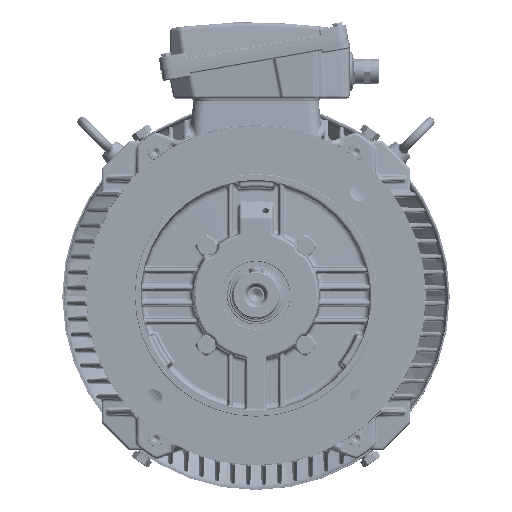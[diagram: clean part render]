
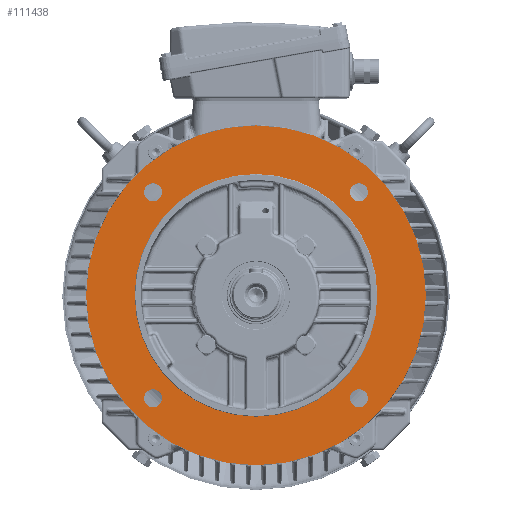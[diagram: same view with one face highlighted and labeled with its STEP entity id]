
A CAD part, top view. The second image highlights one B-rep face of the part: STEP entity #111438.
In plain terms, the highlighted planar face has unit normal (0, 0, 1).
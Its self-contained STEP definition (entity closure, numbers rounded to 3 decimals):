
#105 = EDGE_CURVE ( 'NONE', #51434, #89470, #458773, .T. ) ;
#495 = CIRCLE ( 'NONE', #356162, 0.364 ) ;
#2286 = EDGE_CURVE ( 'NONE', #432445, #441533, #495, .T. ) ;
#6829 = VERTEX_POINT ( 'NONE', #59588 ) ;
#15747 = CARTESIAN_POINT ( 'NONE',  ( 4.921, 0., 11.181 ) ) ;
#18418 = FACE_OUTER_BOUND ( 'NONE', #339193, .T. ) ;
#19552 = ORIENTED_EDGE ( 'NONE', *, *, #2286, .F. ) ;
#21329 = DIRECTION ( 'NONE',  ( 0., 0., 1. ) ) ;
#25256 = CARTESIAN_POINT ( 'NONE',  ( 0., 4.921, 11.181 ) ) ;
#30834 = CARTESIAN_POINT ( 'NONE',  ( 0., 0., 11.181 ) ) ;
#31001 = DIRECTION ( 'NONE',  ( 0., 0., 1. ) ) ;
#35166 = CARTESIAN_POINT ( 'NONE',  ( 4.176, -4.176, 11.181 ) ) ;
#35248 = DIRECTION ( 'NONE',  ( 0., 0., 1. ) ) ;
#38671 = CIRCLE ( 'NONE', #297960, 6.89 ) ;
#43388 = ORIENTED_EDGE ( 'NONE', *, *, #418433, .F. ) ;
#45595 = VERTEX_POINT ( 'NONE', #163402 ) ;
#48859 = CARTESIAN_POINT ( 'NONE',  ( 4.176, 4.176, 11.181 ) ) ;
#51434 = VERTEX_POINT ( 'NONE', #455961 ) ;
#56564 = VERTEX_POINT ( 'NONE', #160478 ) ;
#57623 = CARTESIAN_POINT ( 'NONE',  ( -6.89, 0., 11.181 ) ) ;
#59274 = CIRCLE ( 'NONE', #451654, 0.364 ) ;
#59588 = CARTESIAN_POINT ( 'NONE',  ( 4.54, -4.176, 11.181 ) ) ;
#87058 = DIRECTION ( 'NONE',  ( 1., 0., 0. ) ) ;
#87186 = EDGE_LOOP ( 'NONE', ( #434586, #161444 ) ) ;
#89470 = VERTEX_POINT ( 'NONE', #367854 ) ;
#97041 = DIRECTION ( 'NONE',  ( 0., 0., 1. ) ) ;
#100374 = DIRECTION ( 'NONE',  ( 1., 0., 0. ) ) ;
#103962 = ORIENTED_EDGE ( 'NONE', *, *, #105, .F. ) ;
#108917 = CIRCLE ( 'NONE', #405402, 4.921 ) ;
#109064 = CIRCLE ( 'NONE', #390621, 0.364 ) ;
#109793 = ORIENTED_EDGE ( 'NONE', *, *, #457904, .F. ) ;
#111438 = ADVANCED_FACE ( 'NONE', ( #131883, #336245, #414912, #271140, #18418, #199277 ), #159885, .T. ) ;
#115702 = DIRECTION ( 'NONE',  ( 1., 0., 0. ) ) ;
#122287 = DIRECTION ( 'NONE',  ( 0., 0., 1. ) ) ;
#126411 = DIRECTION ( 'NONE',  ( 0., 0., 1. ) ) ;
#131883 = FACE_BOUND ( 'NONE', #436639, .T. ) ;
#150964 = DIRECTION ( 'NONE',  ( 0., 0., 1. ) ) ;
#151738 = AXIS2_PLACEMENT_3D ( 'NONE', #188498, #190757, #330017 ) ;
#155637 = EDGE_CURVE ( 'NONE', #337696, #56564, #452272, .T. ) ;
#159027 = CARTESIAN_POINT ( 'NONE',  ( 0., 0., 11.181 ) ) ;
#159885 = PLANE ( 'NONE',  #218903 ) ;
#160461 = CIRCLE ( 'NONE', #190286, 6.89 ) ;
#160478 = CARTESIAN_POINT ( 'NONE',  ( -4.921, 0., 11.181 ) ) ;
#160604 = ORIENTED_EDGE ( 'NONE', *, *, #438870, .F. ) ;
#161444 = ORIENTED_EDGE ( 'NONE', *, *, #389803, .F. ) ;
#162819 = VERTEX_POINT ( 'NONE', #212062 ) ;
#163402 = CARTESIAN_POINT ( 'NONE',  ( 4.54, 4.176, 11.181 ) ) ;
#172897 = EDGE_CURVE ( 'NONE', #247254, #351736, #160461, .T. ) ;
#181633 = DIRECTION ( 'NONE',  ( 1., 0., 0. ) ) ;
#183118 = DIRECTION ( 'NONE',  ( 0., 0., 1. ) ) ;
#187224 = EDGE_CURVE ( 'NONE', #385081, #45595, #211005, .T. ) ;
#188498 = CARTESIAN_POINT ( 'NONE',  ( -4.176, 4.176, 11.181 ) ) ;
#190286 = AXIS2_PLACEMENT_3D ( 'NONE', #30834, #304659, #100374 ) ;
#190757 = DIRECTION ( 'NONE',  ( 0., 0., 1. ) ) ;
#197692 = CARTESIAN_POINT ( 'NONE',  ( 4.176, 4.176, 11.181 ) ) ;
#198832 = DIRECTION ( 'NONE',  ( 1., 0., 0. ) ) ;
#199277 = FACE_BOUND ( 'NONE', #87186, .T. ) ;
#205887 = DIRECTION ( 'NONE',  ( 0., 0., 1. ) ) ;
#211005 = CIRCLE ( 'NONE', #233188, 0.364 ) ;
#211600 = CARTESIAN_POINT ( 'NONE',  ( 0., 0., 11.181 ) ) ;
#212062 = CARTESIAN_POINT ( 'NONE',  ( 3.812, -4.176, 11.181 ) ) ;
#218903 = AXIS2_PLACEMENT_3D ( 'NONE', #25256, #97041, #301395 ) ;
#233188 = AXIS2_PLACEMENT_3D ( 'NONE', #197692, #21329, #304292 ) ;
#234585 = ORIENTED_EDGE ( 'NONE', *, *, #187224, .F. ) ;
#238728 = EDGE_CURVE ( 'NONE', #89470, #51434, #277595, .T. ) ;
#244407 = ORIENTED_EDGE ( 'NONE', *, *, #238728, .F. ) ;
#246851 = DIRECTION ( 'NONE',  ( 1., 0., 0. ) ) ;
#247254 = VERTEX_POINT ( 'NONE', #57623 ) ;
#260010 = EDGE_LOOP ( 'NONE', ( #160604, #19552 ) ) ;
#271140 = FACE_BOUND ( 'NONE', #260010, .T. ) ;
#275661 = ORIENTED_EDGE ( 'NONE', *, *, #399640, .T. ) ;
#277595 = CIRCLE ( 'NONE', #151738, 0.364 ) ;
#283310 = DIRECTION ( 'NONE',  ( 0., 0., 1. ) ) ;
#286012 = CARTESIAN_POINT ( 'NONE',  ( 6.89, 0., 11.181 ) ) ;
#287178 = EDGE_LOOP ( 'NONE', ( #109793, #374511 ) ) ;
#297960 = AXIS2_PLACEMENT_3D ( 'NONE', #159027, #126411, #87058 ) ;
#301395 = DIRECTION ( 'NONE',  ( 1., 0., 0. ) ) ;
#304292 = DIRECTION ( 'NONE',  ( 1., 0., 0. ) ) ;
#304659 = DIRECTION ( 'NONE',  ( 0., 0., 1. ) ) ;
#314027 = CARTESIAN_POINT ( 'NONE',  ( -4.176, 4.176, 11.181 ) ) ;
#315033 = CARTESIAN_POINT ( 'NONE',  ( -3.812, -4.176, 11.181 ) ) ;
#326202 = AXIS2_PLACEMENT_3D ( 'NONE', #357097, #183118, #115702 ) ;
#327113 = CARTESIAN_POINT ( 'NONE',  ( -4.54, -4.176, 11.181 ) ) ;
#329624 = DIRECTION ( 'NONE',  ( 1., 0., 0. ) ) ;
#330017 = DIRECTION ( 'NONE',  ( 1., 0., 0. ) ) ;
#332949 = CIRCLE ( 'NONE', #340222, 0.364 ) ;
#336245 = FACE_BOUND ( 'NONE', #383714, .T. ) ;
#337696 = VERTEX_POINT ( 'NONE', #15747 ) ;
#339193 = EDGE_LOOP ( 'NONE', ( #275661, #370586 ) ) ;
#340222 = AXIS2_PLACEMENT_3D ( 'NONE', #35166, #283310, #346150 ) ;
#346150 = DIRECTION ( 'NONE',  ( 1., 0., 0. ) ) ;
#347053 = EDGE_CURVE ( 'NONE', #162819, #6829, #332949, .T. ) ;
#350763 = DIRECTION ( 'NONE',  ( 1., 0., 0. ) ) ;
#351736 = VERTEX_POINT ( 'NONE', #286012 ) ;
#356162 = AXIS2_PLACEMENT_3D ( 'NONE', #423078, #397470, #246851 ) ;
#357097 = CARTESIAN_POINT ( 'NONE',  ( 0., 0., 11.181 ) ) ;
#367854 = CARTESIAN_POINT ( 'NONE',  ( -3.812, 4.176, 11.181 ) ) ;
#370586 = ORIENTED_EDGE ( 'NONE', *, *, #172897, .T. ) ;
#374511 = ORIENTED_EDGE ( 'NONE', *, *, #347053, .F. ) ;
#377602 = CARTESIAN_POINT ( 'NONE',  ( -4.176, -4.176, 11.181 ) ) ;
#383714 = EDGE_LOOP ( 'NONE', ( #43388, #234585 ) ) ;
#385081 = VERTEX_POINT ( 'NONE', #397761 ) ;
#389803 = EDGE_CURVE ( 'NONE', #56564, #337696, #108917, .T. ) ;
#390621 = AXIS2_PLACEMENT_3D ( 'NONE', #377602, #205887, #456243 ) ;
#397470 = DIRECTION ( 'NONE',  ( 0., 0., 1. ) ) ;
#397761 = CARTESIAN_POINT ( 'NONE',  ( 3.812, 4.176, 11.181 ) ) ;
#399640 = EDGE_CURVE ( 'NONE', #351736, #247254, #38671, .T. ) ;
#405402 = AXIS2_PLACEMENT_3D ( 'NONE', #211600, #35248, #350763 ) ;
#407621 = CARTESIAN_POINT ( 'NONE',  ( 4.176, -4.176, 11.181 ) ) ;
#414912 = FACE_BOUND ( 'NONE', #287178, .T. ) ;
#415440 = CIRCLE ( 'NONE', #437927, 0.364 ) ;
#418433 = EDGE_CURVE ( 'NONE', #45595, #385081, #59274, .T. ) ;
#423078 = CARTESIAN_POINT ( 'NONE',  ( -4.176, -4.176, 11.181 ) ) ;
#429004 = AXIS2_PLACEMENT_3D ( 'NONE', #314027, #31001, #181633 ) ;
#432445 = VERTEX_POINT ( 'NONE', #327113 ) ;
#434586 = ORIENTED_EDGE ( 'NONE', *, *, #155637, .F. ) ;
#436639 = EDGE_LOOP ( 'NONE', ( #244407, #103962 ) ) ;
#437927 = AXIS2_PLACEMENT_3D ( 'NONE', #407621, #122287, #198832 ) ;
#438870 = EDGE_CURVE ( 'NONE', #441533, #432445, #109064, .T. ) ;
#441533 = VERTEX_POINT ( 'NONE', #315033 ) ;
#451654 = AXIS2_PLACEMENT_3D ( 'NONE', #48859, #150964, #329624 ) ;
#452272 = CIRCLE ( 'NONE', #326202, 4.921 ) ;
#455961 = CARTESIAN_POINT ( 'NONE',  ( -4.54, 4.176, 11.181 ) ) ;
#456243 = DIRECTION ( 'NONE',  ( 1., 0., 0. ) ) ;
#457904 = EDGE_CURVE ( 'NONE', #6829, #162819, #415440, .T. ) ;
#458773 = CIRCLE ( 'NONE', #429004, 0.364 ) ;
